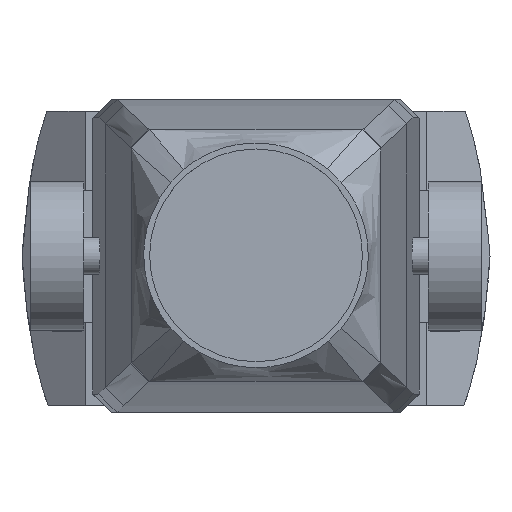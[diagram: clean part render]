
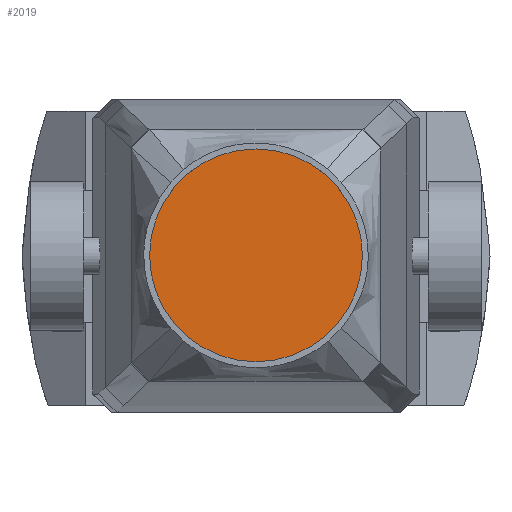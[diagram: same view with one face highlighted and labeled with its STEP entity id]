
A CAD part, top view. The second image highlights one B-rep face of the part: STEP entity #2019.
In plain terms, the highlighted planar face has unit normal (0, 0, 1).
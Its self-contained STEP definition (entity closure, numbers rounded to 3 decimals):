
#181=PLANE('',#2272);
#276=FACE_OUTER_BOUND('',#403,.T.);
#403=EDGE_LOOP('',(#1683));
#880=CIRCLE('',#2271,88.393);
#988=VERTEX_POINT('',#4389);
#1230=EDGE_CURVE('',#988,#988,#880,.T.);
#1683=ORIENTED_EDGE('',*,*,#1230,.F.);
#2019=ADVANCED_FACE('',(#276),#181,.T.);
#2271=AXIS2_PLACEMENT_3D('',#4391,#2609,#2610);
#2272=AXIS2_PLACEMENT_3D('',#4392,#2611,#2612);
#2609=DIRECTION('center_axis',(0.,0.,
-1.));
#2610=DIRECTION('ref_axis',(-1.,0.,0.));
#2611=DIRECTION('center_axis',(0.,0.,
1.));
#2612=DIRECTION('ref_axis',(-1.,0.,0.));
#4389=CARTESIAN_POINT('',(88.393,0.,711.449));
#4391=CARTESIAN_POINT('Origin',(0.,0.,
711.449));
#4392=CARTESIAN_POINT('Origin',(0.,0.,
711.449));
